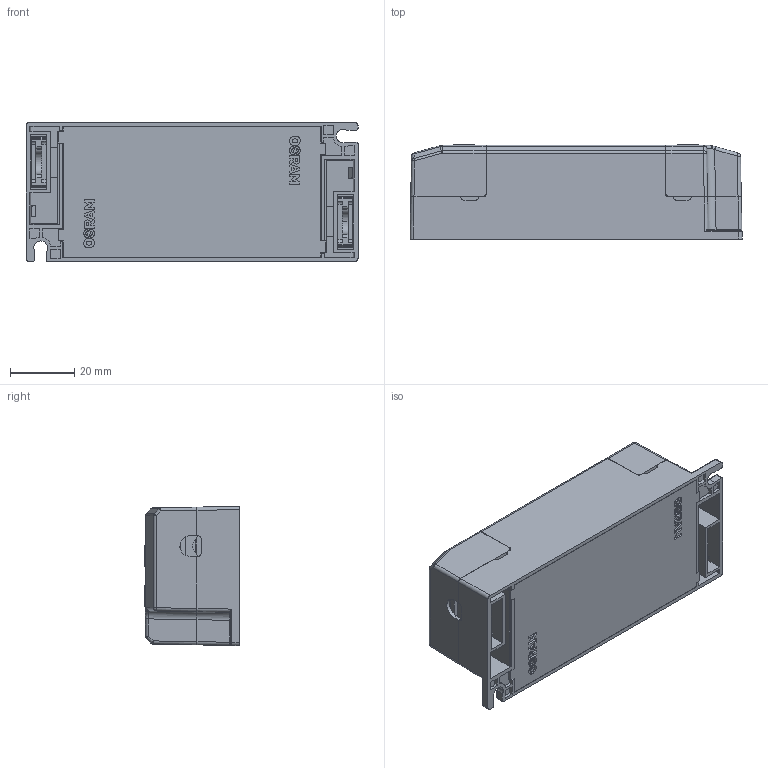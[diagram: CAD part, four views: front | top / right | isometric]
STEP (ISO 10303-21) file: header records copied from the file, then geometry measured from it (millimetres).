
FILE_DESCRIPTION (( 'STEP AP214' ), '1' );
FILE_NAME ('103 final.STEP', '2021-03-25T08:14:14', ( '' ), ( '' ), 'SwSTEP 2.0', 'SolidWorks 2020', '' );
FILE_SCHEMA (( 'AUTOMOTIVE_DESIGN' ));
Length unit declared in the file: millimetre
Products named in the file (1): 103 final
Bounding box: 103 x 29.3 x 43.2 mm (x, y, z)
Volume: 103194.8 mm3; surface area: 40056 mm2
Topology: 1 solids, 1 shells, 1670 faces, 4637 edges, 2991 vertices
Faces by surface type: plane 1178, cylinder 373, bspline 68, sphere 28, torus 23
Entity records: 56023 total; most frequent: CARTESIAN_POINT 14022, ORIENTED_EDGE 9232, DIRECTION 8024, EDGE_CURVE 4616, LINE 3722, VECTOR 3722, VERTEX_POINT 2991, AXIS2_PLACEMENT_3D 2151
